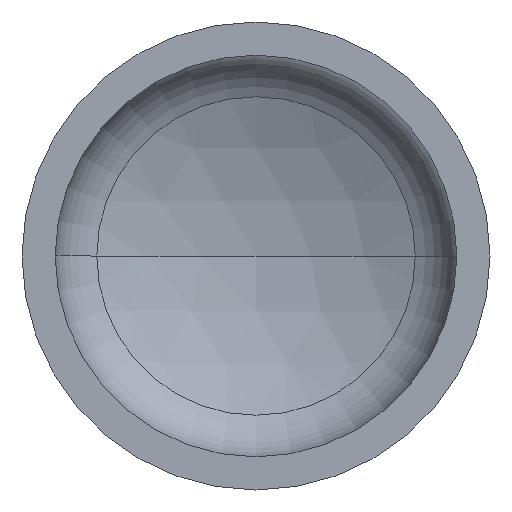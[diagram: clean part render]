
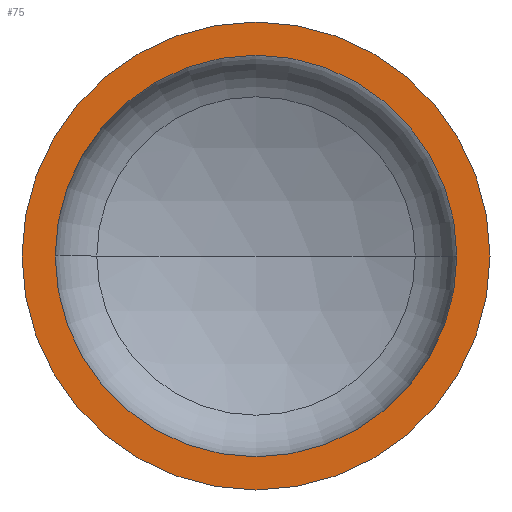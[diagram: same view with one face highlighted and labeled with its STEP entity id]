
A CAD part, front view. The second image highlights one B-rep face of the part: STEP entity #75.
In plain terms, the highlighted planar face has unit normal (0, -1, 0).
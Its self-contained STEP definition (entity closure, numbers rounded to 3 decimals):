
#4 = AXIS2_PLACEMENT_3D ( 'NONE', #83, #85, #347 ) ;
#28 = ORIENTED_EDGE ( 'NONE', *, *, #335, .F. ) ;
#32 = AXIS2_PLACEMENT_3D ( 'NONE', #206, #190, #194 ) ;
#43 = AXIS2_PLACEMENT_3D ( 'NONE', #146, #370, #371 ) ;
#44 = AXIS2_PLACEMENT_3D ( 'NONE', #332, #330, #344 ) ;
#54 = VERTEX_POINT ( 'NONE', #273 ) ;
#60 = EDGE_CURVE ( 'NONE', #263, #188, #127, .T. ) ;
#61 = EDGE_CURVE ( 'NONE', #112, #54, #408, .T. ) ;
#75 = ADVANCED_FACE ( 'NONE', ( #341, #119 ), #174, .F. ) ;
#78 = AXIS2_PLACEMENT_3D ( 'NONE', #125, #329, #218 ) ;
#83 = CARTESIAN_POINT ( 'NONE',  ( 0., 0., 0. ) ) ;
#85 = DIRECTION ( 'NONE',  ( 0., -1., 0. ) ) ;
#112 = VERTEX_POINT ( 'NONE', #171 ) ;
#119 = FACE_OUTER_BOUND ( 'NONE', #299, .T. ) ;
#123 = EDGE_LOOP ( 'NONE', ( #378, #28 ) ) ;
#125 = CARTESIAN_POINT ( 'NONE',  ( 0., 0., 0. ) ) ;
#127 = CIRCLE ( 'NONE', #44, 550. ) ;
#146 = CARTESIAN_POINT ( 'NONE',  ( 0., 0., 0. ) ) ;
#154 = CIRCLE ( 'NONE', #4, 472. ) ;
#171 = CARTESIAN_POINT ( 'NONE',  ( 472., 0., 0. ) ) ;
#174 = PLANE ( 'NONE',  #32 ) ;
#188 = VERTEX_POINT ( 'NONE', #266 ) ;
#190 = DIRECTION ( 'NONE',  ( 0., 1., 0. ) ) ;
#194 = DIRECTION ( 'NONE',  ( -1., 0., 0. ) ) ;
#206 = CARTESIAN_POINT ( 'NONE',  ( -550., 0., 0. ) ) ;
#218 = DIRECTION ( 'NONE',  ( 1., 0., 0. ) ) ;
#263 = VERTEX_POINT ( 'NONE', #389 ) ;
#266 = CARTESIAN_POINT ( 'NONE',  ( 550., 0., 0. ) ) ;
#273 = CARTESIAN_POINT ( 'NONE',  ( -472., 0., 0. ) ) ;
#299 = EDGE_LOOP ( 'NONE', ( #384, #346 ) ) ;
#329 = DIRECTION ( 'NONE',  ( 0., -1., 0. ) ) ;
#330 = DIRECTION ( 'NONE',  ( 0., -1., 0. ) ) ;
#332 = CARTESIAN_POINT ( 'NONE',  ( 0., 0., 0. ) ) ;
#335 = EDGE_CURVE ( 'NONE', #54, #112, #154, .T. ) ;
#341 = FACE_BOUND ( 'NONE', #123, .T. ) ;
#344 = DIRECTION ( 'NONE',  ( 1., 0., 0. ) ) ;
#346 = ORIENTED_EDGE ( 'NONE', *, *, #60, .T. ) ;
#347 = DIRECTION ( 'NONE',  ( 1., 0., 0. ) ) ;
#353 = CIRCLE ( 'NONE', #78, 550. ) ;
#367 = EDGE_CURVE ( 'NONE', #188, #263, #353, .T. ) ;
#370 = DIRECTION ( 'NONE',  ( 0., -1., 0. ) ) ;
#371 = DIRECTION ( 'NONE',  ( 1., 0., 0. ) ) ;
#378 = ORIENTED_EDGE ( 'NONE', *, *, #61, .F. ) ;
#384 = ORIENTED_EDGE ( 'NONE', *, *, #367, .T. ) ;
#389 = CARTESIAN_POINT ( 'NONE',  ( -550., 0., 0. ) ) ;
#408 = CIRCLE ( 'NONE', #43, 472. ) ;
